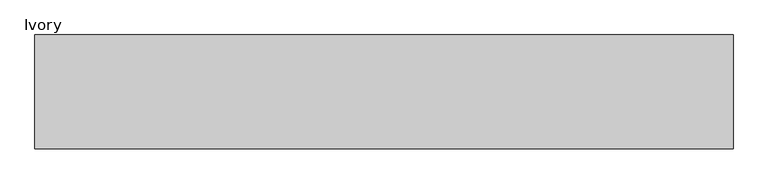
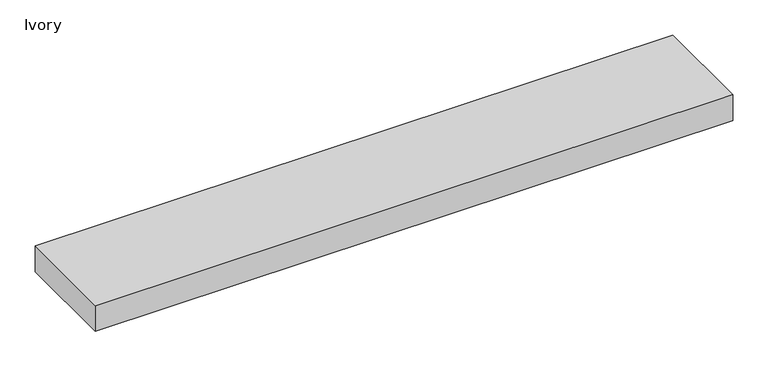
"""IFC4 building model written with IfcOpenShell, lengths in millimetres: proxy geometry, Raceway-5500_Series-Wiremold-Multi_Channel : Ivory."""

from ifc_helpers import new_model, si_unit, origin, origin_with_axes, place, context, project, spatial, polyline, outline, extrude, source, transform, mapped, element, save


def ivory_ad3d094f(model_context):
    return source(origin(), model_context, "Body", "SweptSolid", [
        extrude(outline(polyline([(1041.4, 84.9376), (1041.4, -84.9376), (0.0, -84.9376), (0.0, 84.9376), (1041.4, 84.9376)])), origin_with_axes(), (0.0, 0.0, 1.0), 44.45),
    ])


if __name__ == "__main__":
    model = new_model("IFC4")
    model_context = context("Model", 3, world=origin())
    ifc_project = project(units=[si_unit("LENGTHUNIT", "METRE", prefix="MILLI")], contexts=[model_context])
    site = spatial("IfcSite", under=ifc_project)
    building = spatial("IfcBuilding", under=site)
    placement = place(None, origin())
    ivory_shape = ivory_ad3d094f(model_context)
    element("IfcBuildingElementProxy", 1, Name="Raceway-5500_Series-Wiremold-Multi_Channel : Ivory", ObjectType="Raceway-5500_Series-Wiremold-Multi_Channel : Ivory", at=placement, inside=building, context=model_context, shape_type="MappedRepresentation", body=[
        mapped(ivory_shape, transform((0.0, 0.0, 0.0), x_axis=(1.0, 0.0, 0.0), y_axis=(0.0, 1.0, 0.0), z_axis=(0.0, 0.0, 1.0))),
    ])
    save(model, "model.ifc")
